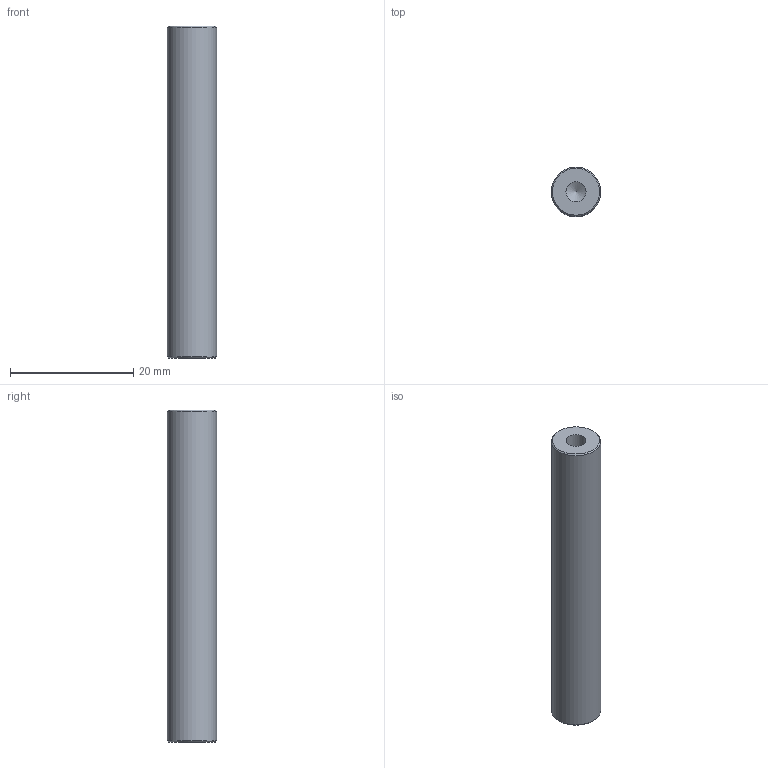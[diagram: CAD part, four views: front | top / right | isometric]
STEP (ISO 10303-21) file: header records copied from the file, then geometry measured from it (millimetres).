
FILE_DESCRIPTION(/* description */ ('Cocking Handle'),/* implementation_level */ '2;1');
FILE_NAME(/* name */ 'Z:\Werkstatt Server\Projekte\Atlas\Entwicklung u. Konstruktion\Konstruktion\CAD Daten\ITkPixToolV2.0\Stencil Tool\Step Files\ITPTv2.03.00.07.stp',/* time_stamp */ '2022-06-02T12:27:29+02:00',/* author */ ('Rüdiger Widera'),/* organization */ (''),/* preprocessor_version */ 'ST-DEVELOPER v19',/* originating_system */ 'Autodesk Inventor 2023',/* authorisation */ '');
FILE_SCHEMA (('AUTOMOTIVE_DESIGN { 1 0 10303 214 3 1 1 }'));
Length unit declared in the file: millimetre
Products named in the file (1): ITPTv2.03.00.07
Bounding box: 8 x 8 x 53.8 mm (x, y, z)
Volume: 2532.8 mm3; surface area: 1653.1 mm2
Topology: 1 solids, 1 shells, 9 faces, 19 edges, 12 vertices
Faces by surface type: cone 4, cylinder 3, plane 2
Full cylindrical faces by diameter (mm): 3.242 x2, 8 x1
Entity records: 280 total; most frequent: DIRECTION 47, CARTESIAN_POINT 39, ORIENTED_EDGE 34, AXIS2_PLACEMENT_3D 20, EDGE_CURVE 17, VERTEX_POINT 12, EDGE_LOOP 11, CIRCLE 10
